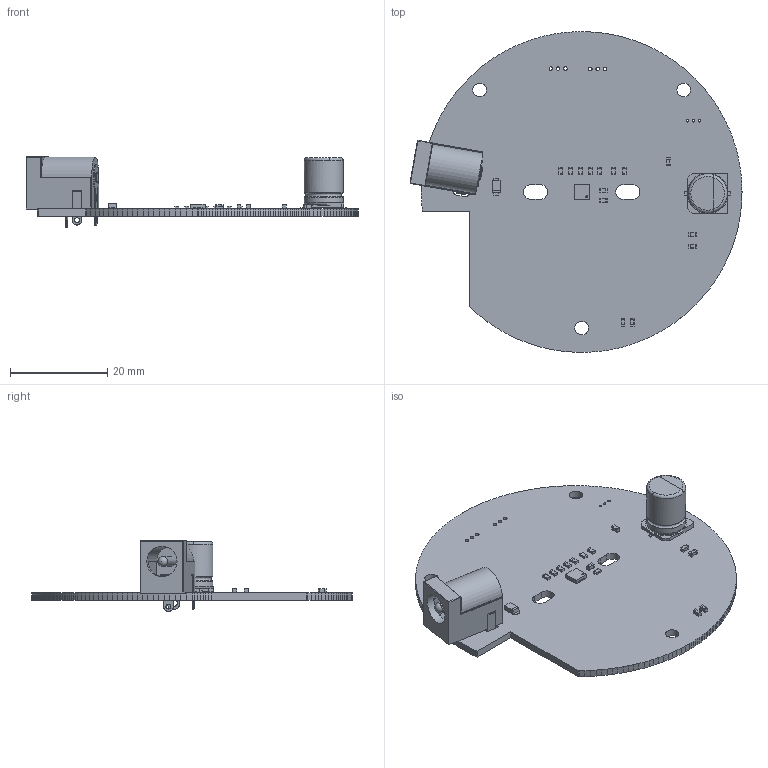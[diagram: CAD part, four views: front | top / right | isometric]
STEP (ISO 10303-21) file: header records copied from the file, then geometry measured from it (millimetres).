
FILE_DESCRIPTION(('KiCad electronic assembly'),'2;1');
FILE_NAME('.step','2026-06-03T15:50:17',('Pcbnew'),('Kicad'), 'Open CASCADE STEP processor 7.9','KiCad to STEP converter','Unknown' );
FILE_SCHEMA(('AUTOMOTIVE_DESIGN { 1 0 10303 214 1 1 1 1 }'));
Length unit declared in the file: millimetre
Products named in the file (40): .step 1; BarrelJack_Horizontal; R_0603_1608Metric; C_0603_1608Metric; CP_Elec_8x10.5; CP_Elec_8x105; QFN-16_3x3; User Library-QFN-16_3x3; User Library-QFN-16_3x3_1; User Library-QFN-16_3x3_2; User Library-QFN-16_3x3_3; User Library-QFN-16_3x3_4; User Library-QFN-16_3x3_5; User Library-QFN-16_3x3_6; User Library-QFN-16_3x3_7; User Library-QFN-16_3x3_8; User Library-QFN-16_3x3_9; User Library-QFN-16_3x3_10; User Library-QFN-16_3x3_11; User Library-QFN-16_3x3_12; User Library-QFN-16_3x3_13; User Library-QFN-16_3x3_14; User Library-QFN-16_3x3_15; User Library-QFN-16_3x3_16; User Library-QFN-16_3x3_17; User Library-QFN-16_3x3_18; Nexperia_CFP3_SOD-123W; CQ assembly; 6081697a-9268-11ed-8af4-a0cec80452fd; 6081697a-9268-11ed-8af4-a0cec80452fd_part; 60816e3e-9268-11ed-8af4-a0cec80452fd; 60816e3e-9268-11ed-8af4-a0cec80452fd_part; 6081710e-9268-11ed-8af4-a0cec80452fd; 6081710e-9268-11ed-8af4-a0cec80452fd_part; 6081737a-9268-11ed-8af4-a0cec80452fd; 6081737a-9268-11ed-8af4-a0cec80452fd_part; Robot Face_PCB
Assembly tree (51 placements, depth 6):
  .step 1
    BarrelJack_Horizontal
      BarrelJack_Horizontal
    R_0603_1608Metric  x8
      R_0603_1608Metric
    C_0603_1608Metric  x6
      C_0603_1608Metric
    CP_Elec_8x10.5
      CP_Elec_8x105
    QFN-16_3x3
      User Library-QFN-16_3x3
        User Library-QFN-16_3x3_1
        User Library-QFN-16_3x3_2
        User Library-QFN-16_3x3_3
        User Library-QFN-16_3x3_4
        User Library-QFN-16_3x3_5
        User Library-QFN-16_3x3_6
        User Library-QFN-16_3x3_7
        User Library-QFN-16_3x3_8
        User Library-QFN-16_3x3_9
        User Library-QFN-16_3x3_10
        User Library-QFN-16_3x3_11
        User Library-QFN-16_3x3_12
        User Library-QFN-16_3x3_13
        User Library-QFN-16_3x3_14
        User Library-QFN-16_3x3_15
        User Library-QFN-16_3x3_16
        User Library-QFN-16_3x3_17
        User Library-QFN-16_3x3_18
    Nexperia_CFP3_SOD-123W
      CQ assembly
        6081697a-9268-11ed-8af4-a0cec80452fd
          6081697a-9268-11ed-8af4-a0cec80452fd_part
          60816e3e-9268-11ed-8af4-a0cec80452fd
            60816e3e-9268-11ed-8af4-a0cec80452fd_part
          6081710e-9268-11ed-8af4-a0cec80452fd
            6081710e-9268-11ed-8af4-a0cec80452fd_part
          6081737a-9268-11ed-8af4-a0cec80452fd
            6081737a-9268-11ed-8af4-a0cec80452fd_part
    Robot Face_PCB
Bounding box: 68.34 x 66 x 14.6 mm (x, y, z)
Volume: 6145.1 mm3; surface area: 9001.1 mm2
Topology: 43 solids, 43 shells, 951 faces, 2471 edges, 1618 vertices
Faces by surface type: plane 733, cylinder 194, bspline 12, sphere 5, torus 4, extrusion 2, revolution 1
Full cylindrical faces by diameter (mm): 0.5 x3, 0.73 x6, 1 x2, 1.5 x2, 2 x2, 2.8 x3, 6.3 x1, 8 x2
Entity records: 22370 total; most frequent: CARTESIAN_POINT 3633, ORIENTED_EDGE 3260, DIRECTION 3107, EDGE_CURVE 1630, VECTOR 1442, LINE 1440, VERTEX_POINT 1070, AXIS2_PLACEMENT_3D 832
